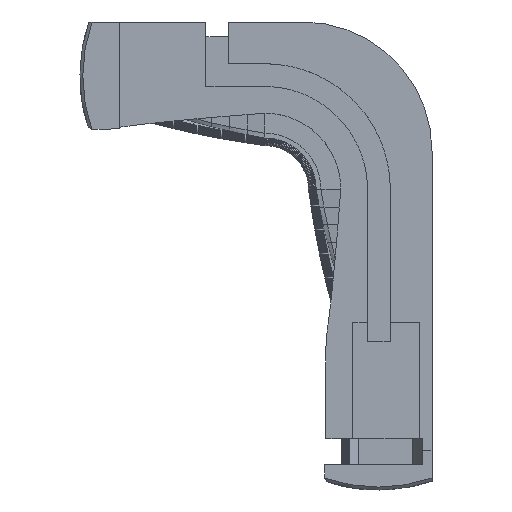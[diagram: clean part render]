
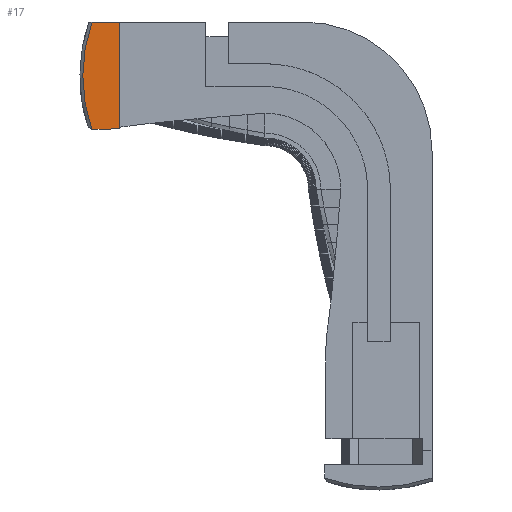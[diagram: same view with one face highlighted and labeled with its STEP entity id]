
A CAD part, top view. The second image highlights one B-rep face of the part: STEP entity #17.
In plain terms, the highlighted planar face has unit normal (0, 0, 1).
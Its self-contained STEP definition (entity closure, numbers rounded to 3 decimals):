
#17 = ADVANCED_FACE('',(#18),#33,.T.);
#18 = FACE_BOUND('',#19,.T.);
#19 = EDGE_LOOP('',(#20,#56,#82,#116,#142));
#20 = ORIENTED_EDGE('',*,*,#21,.T.);
#21 = EDGE_CURVE('',#22,#24,#26,.T.);
#22 = VERTEX_POINT('',#23);
#23 = CARTESIAN_POINT('',(123.635,179.2,13.5));
#24 = VERTEX_POINT('',#25);
#25 = CARTESIAN_POINT('',(123.603,156.594,13.5));
#26 = SURFACE_CURVE('',#27,(#32,#44),.PCURVE_S1.);
#27 = CIRCLE('',#28,34.25);
#28 = AXIS2_PLACEMENT_3D('',#29,#30,#31);
#29 = CARTESIAN_POINT('',(155.95,167.85,13.5));
#30 = DIRECTION('',(0.,0.,1.));
#31 = DIRECTION('',(1.,0.,-0.));
#32 = PCURVE('',#33,#38);
#33 = PLANE('',#34);
#34 = AXIS2_PLACEMENT_3D('',#35,#36,#37);
#35 = CARTESIAN_POINT('',(110.,70.,13.5));
#36 = DIRECTION('',(0.,0.,1.));
#37 = DIRECTION('',(1.,0.,-0.));
#38 = DEFINITIONAL_REPRESENTATION('',(#39),#43);
#39 = CIRCLE('',#40,34.25);
#40 = AXIS2_PLACEMENT_2D('',#41,#42);
#41 = CARTESIAN_POINT('',(45.95,97.85));
#42 = DIRECTION('',(1.,0.));
#43 = ( GEOMETRIC_REPRESENTATION_CONTEXT(2) 
PARAMETRIC_REPRESENTATION_CONTEXT() REPRESENTATION_CONTEXT('2D SPACE',''
  ) );
#44 = PCURVE('',#45,#50);
#45 = CONICAL_SURFACE('',#46,34.85,0.785);
#46 = AXIS2_PLACEMENT_3D('',#47,#48,#49);
#47 = CARTESIAN_POINT('',(155.95,167.85,12.9));
#48 = DIRECTION('',(-0.,-0.,-1.));
#49 = DIRECTION('',(1.,0.,-0.));
#50 = DEFINITIONAL_REPRESENTATION('',(#51),#55);
#51 = LINE('',#52,#53);
#52 = CARTESIAN_POINT('',(-0.,-0.6));
#53 = VECTOR('',#54,1.);
#54 = DIRECTION('',(-1.,-0.));
#55 = ( GEOMETRIC_REPRESENTATION_CONTEXT(2) 
PARAMETRIC_REPRESENTATION_CONTEXT() REPRESENTATION_CONTEXT('2D SPACE',''
  ) );
#56 = ORIENTED_EDGE('',*,*,#57,.T.);
#57 = EDGE_CURVE('',#24,#58,#60,.T.);
#58 = VERTEX_POINT('',#59);
#59 = CARTESIAN_POINT('',(126.4,156.594,13.5));
#60 = SURFACE_CURVE('',#61,(#65,#71),.PCURVE_S1.);
#61 = LINE('',#62,#63);
#62 = CARTESIAN_POINT('',(-8.35,156.594,13.5));
#63 = VECTOR('',#64,1.);
#64 = DIRECTION('',(1.,0.,0.));
#65 = PCURVE('',#33,#66);
#66 = DEFINITIONAL_REPRESENTATION('',(#67),#70);
#67 = B_SPLINE_CURVE_WITH_KNOTS('',1,(#68,#69),.UNSPECIFIED.,.F.,.F.,(2,
    2),(118.35,134.75),.PIECEWISE_BEZIER_KNOTS.);
#68 = CARTESIAN_POINT('',(0.,86.594));
#69 = CARTESIAN_POINT('',(16.4,86.594));
#70 = ( GEOMETRIC_REPRESENTATION_CONTEXT(2) 
PARAMETRIC_REPRESENTATION_CONTEXT() REPRESENTATION_CONTEXT('2D SPACE',''
  ) );
#71 = PCURVE('',#72,#77);
#72 = PLANE('',#73);
#73 = AXIS2_PLACEMENT_3D('',#74,#75,#76);
#74 = CARTESIAN_POINT('',(-126.7,156.995,13.005));
#75 = DIRECTION('',(-0.,-0.777,-0.63));
#76 = DIRECTION('',(0.,-0.63,0.777));
#77 = DEFINITIONAL_REPRESENTATION('',(#78),#81);
#78 = B_SPLINE_CURVE_WITH_KNOTS('',1,(#79,#80),.UNSPECIFIED.,.F.,.F.,(2,
    2),(118.35,134.75),.PIECEWISE_BEZIER_KNOTS.);
#79 = CARTESIAN_POINT('',(0.637,-236.7));
#80 = CARTESIAN_POINT('',(0.637,-253.1));
#81 = ( GEOMETRIC_REPRESENTATION_CONTEXT(2) 
PARAMETRIC_REPRESENTATION_CONTEXT() REPRESENTATION_CONTEXT('2D SPACE',''
  ) );
#82 = ORIENTED_EDGE('',*,*,#83,.F.);
#83 = EDGE_CURVE('',#84,#58,#86,.T.);
#84 = VERTEX_POINT('',#85);
#85 = CARTESIAN_POINT('',(129.4,156.811,13.5));
#86 = SURFACE_CURVE('',#87,(#93,#102),.PCURVE_S1.);
#87 = B_SPLINE_CURVE_WITH_KNOTS('',4,(#88,#89,#90,#91,#92),
  .UNSPECIFIED.,.F.,.F.,(5,5),(0.,1.),.PIECEWISE_BEZIER_KNOTS.);
#88 = CARTESIAN_POINT('',(130.133,156.866,13.5));
#89 = CARTESIAN_POINT('',(129.2,156.796,13.5));
#90 = CARTESIAN_POINT('',(128.267,156.728,13.5));
#91 = CARTESIAN_POINT('',(127.333,156.66,13.5));
#92 = CARTESIAN_POINT('',(126.4,156.594,13.5));
#93 = PCURVE('',#33,#94);
#94 = DEFINITIONAL_REPRESENTATION('',(#95),#101);
#95 = B_SPLINE_CURVE_WITH_KNOTS('',4,(#96,#97,#98,#99,#100),
  .UNSPECIFIED.,.F.,.F.,(5,5),(0.,1.),.PIECEWISE_BEZIER_KNOTS.);
#96 = CARTESIAN_POINT('',(20.133,86.866));
#97 = CARTESIAN_POINT('',(19.2,86.796));
#98 = CARTESIAN_POINT('',(18.267,86.728));
#99 = CARTESIAN_POINT('',(17.333,86.66));
#100 = CARTESIAN_POINT('',(16.4,86.594));
#101 = ( GEOMETRIC_REPRESENTATION_CONTEXT(2) 
PARAMETRIC_REPRESENTATION_CONTEXT() REPRESENTATION_CONTEXT('2D SPACE',''
  ) );
#102 = PCURVE('',#103,#108);
#103 = B_SPLINE_SURFACE_WITH_KNOTS('',1,1,(
    (#104,#105)
    ,(#106,#107
    )),.UNSPECIFIED.,.F.,.F.,.F.,(2,2),(2,2),(0.,9.519),(0.,1.),
  .PIECEWISE_BEZIER_KNOTS.);
#104 = CARTESIAN_POINT('',(130.133,157.156,
    13.158));
#105 = CARTESIAN_POINT('',(126.4,156.995,13.005));
#106 = CARTESIAN_POINT('',(130.133,151.,20.4));
#107 = CARTESIAN_POINT('',(126.4,151.,20.4));
#108 = DEFINITIONAL_REPRESENTATION('',(#109),#115);
#109 = B_SPLINE_CURVE_WITH_KNOTS('',4,(#110,#111,#112,#113,#114),
  .UNSPECIFIED.,.F.,.F.,(5,5),(0.,1.),.PIECEWISE_BEZIER_KNOTS.);
#110 = CARTESIAN_POINT('',(0.449,0.));
#111 = CARTESIAN_POINT('',(0.497,0.25));
#112 = CARTESIAN_POINT('',(0.544,0.5));
#113 = CARTESIAN_POINT('',(0.591,0.75));
#114 = CARTESIAN_POINT('',(0.637,1.));
#115 = ( GEOMETRIC_REPRESENTATION_CONTEXT(2) 
PARAMETRIC_REPRESENTATION_CONTEXT() REPRESENTATION_CONTEXT('2D SPACE',''
  ) );
#116 = ORIENTED_EDGE('',*,*,#117,.T.);
#117 = EDGE_CURVE('',#84,#118,#120,.T.);
#118 = VERTEX_POINT('',#119);
#119 = CARTESIAN_POINT('',(129.4,179.2,13.5));
#120 = SURFACE_CURVE('',#121,(#125,#131),.PCURVE_S1.);
#121 = LINE('',#122,#123);
#122 = CARTESIAN_POINT('',(129.4,79.5,13.5));
#123 = VECTOR('',#124,1.);
#124 = DIRECTION('',(-0.,1.,0.));
#125 = PCURVE('',#33,#126);
#126 = DEFINITIONAL_REPRESENTATION('',(#127),#130);
#127 = B_SPLINE_CURVE_WITH_KNOTS('',1,(#128,#129),.UNSPECIFIED.,.F.,.F.,
  (2,2),(9.5,110.5),.PIECEWISE_BEZIER_KNOTS.);
#128 = CARTESIAN_POINT('',(19.4,19.));
#129 = CARTESIAN_POINT('',(19.4,120.));
#130 = ( GEOMETRIC_REPRESENTATION_CONTEXT(2) 
PARAMETRIC_REPRESENTATION_CONTEXT() REPRESENTATION_CONTEXT('2D SPACE',''
  ) );
#131 = PCURVE('',#132,#137);
#132 = PLANE('',#133);
#133 = AXIS2_PLACEMENT_3D('',#134,#135,#136);
#134 = CARTESIAN_POINT('',(129.4,89.,13.2));
#135 = DIRECTION('',(1.,0.,-0.));
#136 = DIRECTION('',(0.,0.,1.));
#137 = DEFINITIONAL_REPRESENTATION('',(#138),#141);
#138 = B_SPLINE_CURVE_WITH_KNOTS('',1,(#139,#140),.UNSPECIFIED.,.F.,.F.,
  (2,2),(9.5,110.5),.PIECEWISE_BEZIER_KNOTS.);
#139 = CARTESIAN_POINT('',(0.3,0.));
#140 = CARTESIAN_POINT('',(0.3,-101.));
#141 = ( GEOMETRIC_REPRESENTATION_CONTEXT(2) 
PARAMETRIC_REPRESENTATION_CONTEXT() REPRESENTATION_CONTEXT('2D SPACE',''
  ) );
#142 = ORIENTED_EDGE('',*,*,#143,.F.);
#143 = EDGE_CURVE('',#22,#118,#144,.T.);
#144 = SURFACE_CURVE('',#145,(#149,#155),.PCURVE_S1.);
#145 = LINE('',#146,#147);
#146 = CARTESIAN_POINT('',(139.,179.2,13.5));
#147 = VECTOR('',#148,1.);
#148 = DIRECTION('',(1.,0.,-0.));
#149 = PCURVE('',#33,#150);
#150 = DEFINITIONAL_REPRESENTATION('',(#151),#154);
#151 = B_SPLINE_CURVE_WITH_KNOTS('',1,(#152,#153),.UNSPECIFIED.,.F.,.F.,
  (2,2),(-29.,29.),.PIECEWISE_BEZIER_KNOTS.);
#152 = CARTESIAN_POINT('',(0.,109.2));
#153 = CARTESIAN_POINT('',(58.,109.2));
#154 = ( GEOMETRIC_REPRESENTATION_CONTEXT(2) 
PARAMETRIC_REPRESENTATION_CONTEXT() REPRESENTATION_CONTEXT('2D SPACE',''
  ) );
#155 = PCURVE('',#156,#161);
#156 = PLANE('',#157);
#157 = AXIS2_PLACEMENT_3D('',#158,#159,#160);
#158 = CARTESIAN_POINT('',(168.,179.2,24.95));
#159 = DIRECTION('',(0.,-1.,0.));
#160 = DIRECTION('',(-1.,0.,0.));
#161 = DEFINITIONAL_REPRESENTATION('',(#162),#166);
#162 = LINE('',#163,#164);
#163 = CARTESIAN_POINT('',(29.,11.45));
#164 = VECTOR('',#165,1.);
#165 = DIRECTION('',(-1.,0.));
#166 = ( GEOMETRIC_REPRESENTATION_CONTEXT(2) 
PARAMETRIC_REPRESENTATION_CONTEXT() REPRESENTATION_CONTEXT('2D SPACE',''
  ) );
